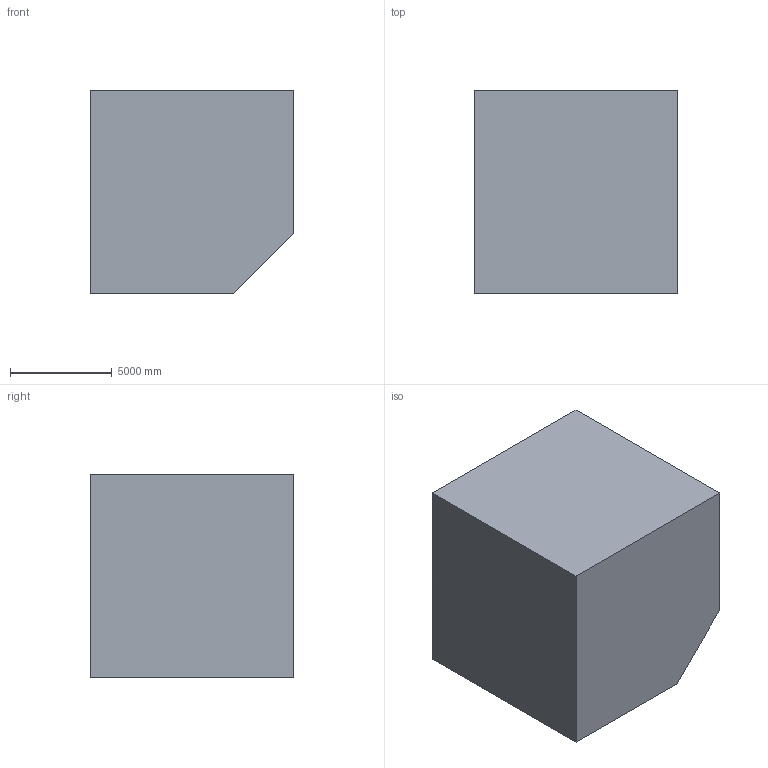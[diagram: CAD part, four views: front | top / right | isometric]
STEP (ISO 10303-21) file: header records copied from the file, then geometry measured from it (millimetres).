
FILE_DESCRIPTION (( 'STEP AP203' ), '1' );
FILE_NAME ('14.STEP', '2022-09-01T11:36:29', ( 'user' ), ( '' ), 'SwSTEP 2.0', 'SolidWorks 2021', '' );
FILE_SCHEMA (( 'CONFIG_CONTROL_DESIGN' ));
Length unit declared in the file: centimetre
Products named in the file (1): 14
Bounding box: 10000 x 10000 x 10000 mm (x, y, z)
Volume: 921410248407.8 mm3; surface area: 616485259.7 mm2
Topology: 1 solids, 1 shells, 14 faces, 33 edges, 22 vertices
Faces by surface type: plane 14
Entity records: 474 total; most frequent: CARTESIAN_POINT 70, ORIENTED_EDGE 66, DIRECTION 63, LINE 33, EDGE_CURVE 33, VECTOR 33, VERTEX_POINT 22, AXIS2_PLACEMENT_3D 15
